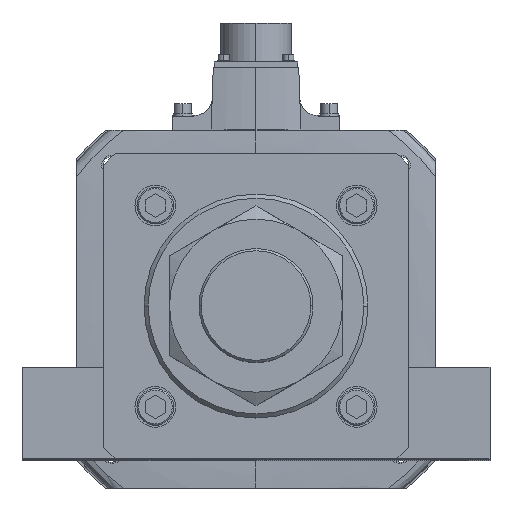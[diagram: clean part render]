
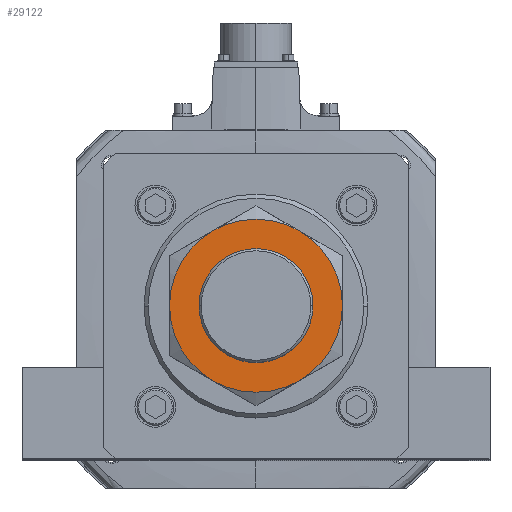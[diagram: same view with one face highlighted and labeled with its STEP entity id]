
A CAD part, top view. The second image highlights one B-rep face of the part: STEP entity #29122.
In plain terms, the highlighted planar face has unit normal (0, 0, 1).
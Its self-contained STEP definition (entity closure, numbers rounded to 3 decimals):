
#1978 = DIRECTION ( 'NONE',  ( 0., 0., 1. ) ) ;
#2155 = DIRECTION ( 'NONE',  ( 0., 0., -1. ) ) ;
#3862 = ORIENTED_EDGE ( 'NONE', *, *, #49593, .F. ) ;
#4217 = PLANE ( 'NONE',  #51559 ) ;
#4454 = VERTEX_POINT ( 'NONE', #49667 ) ;
#5420 = CARTESIAN_POINT ( 'NONE',  ( 0., 0., 34. ) ) ;
#5496 = ORIENTED_EDGE ( 'NONE', *, *, #11812, .F. ) ;
#5563 = DIRECTION ( 'NONE',  ( 0., 0., -1. ) ) ;
#6060 = CARTESIAN_POINT ( 'NONE',  ( -21.25, 36.806, 34. ) ) ;
#6887 = DIRECTION ( 'NONE',  ( 1., 0., 0. ) ) ;
#7992 = CARTESIAN_POINT ( 'NONE',  ( 0., 0., 34. ) ) ;
#8038 = ORIENTED_EDGE ( 'NONE', *, *, #49458, .F. ) ;
#8091 = CARTESIAN_POINT ( 'NONE',  ( 0., 0., 34. ) ) ;
#9026 = AXIS2_PLACEMENT_3D ( 'NONE', #5420, #31481, #14428 ) ;
#9104 = DIRECTION ( 'NONE',  ( 1., 0., 0. ) ) ;
#9345 = CIRCLE ( 'NONE', #51401, 42.5 ) ;
#9680 = CARTESIAN_POINT ( 'NONE',  ( 0., 0., 34. ) ) ;
#11606 = ORIENTED_EDGE ( 'NONE', *, *, #39049, .F. ) ;
#11812 = EDGE_CURVE ( 'NONE', #4454, #38467, #19008, .T. ) ;
#12182 = CARTESIAN_POINT ( 'NONE',  ( 21.25, -36.806, 34. ) ) ;
#14428 = DIRECTION ( 'NONE',  ( 1., 0., 0. ) ) ;
#14484 = AXIS2_PLACEMENT_3D ( 'NONE', #9680, #5563, #23719 ) ;
#15859 = CARTESIAN_POINT ( 'NONE',  ( 21.25, 36.806, 34. ) ) ;
#16000 = CARTESIAN_POINT ( 'NONE',  ( 0., 0., 34. ) ) ;
#17252 = DIRECTION ( 'NONE',  ( 1., 0., 0. ) ) ;
#17462 = CARTESIAN_POINT ( 'NONE',  ( -21.25, -36.806, 34. ) ) ;
#18127 = ORIENTED_EDGE ( 'NONE', *, *, #44080, .F. ) ;
#19008 = CIRCLE ( 'NONE', #14484, 42.5 ) ;
#19285 = ORIENTED_EDGE ( 'NONE', *, *, #24178, .F. ) ;
#22105 = VERTEX_POINT ( 'NONE', #15859 ) ;
#22179 = CIRCLE ( 'NONE', #9026, 42.5 ) ;
#22326 = AXIS2_PLACEMENT_3D ( 'NONE', #53572, #2155, #23947 ) ;
#23396 = CARTESIAN_POINT ( 'NONE',  ( -42.5, 0., 34. ) ) ;
#23719 = DIRECTION ( 'NONE',  ( 1., 0., 0. ) ) ;
#23947 = DIRECTION ( 'NONE',  ( 1., 0., 0. ) ) ;
#24178 = EDGE_CURVE ( 'NONE', #40806, #38806, #9345, .T. ) ;
#25153 = CIRCLE ( 'NONE', #27189, 28. ) ;
#26451 = VERTEX_POINT ( 'NONE', #6060 ) ;
#27189 = AXIS2_PLACEMENT_3D ( 'NONE', #8091, #46863, #17252 ) ;
#27596 = FACE_BOUND ( 'NONE', #30217, .T. ) ;
#29122 = ADVANCED_FACE ( 'NONE', ( #34288, #27596 ), #4217, .T. ) ;
#29196 = DIRECTION ( 'NONE',  ( 0., 0., -1. ) ) ;
#29567 = DIRECTION ( 'NONE',  ( 1., 0., 0. ) ) ;
#29937 = DIRECTION ( 'NONE',  ( 0., 0., 1. ) ) ;
#30217 = EDGE_LOOP ( 'NONE', ( #18127, #34674 ) ) ;
#31481 = DIRECTION ( 'NONE',  ( 0., 0., -1. ) ) ;
#32563 = CARTESIAN_POINT ( 'NONE',  ( 0., 0., 34. ) ) ;
#33419 = DIRECTION ( 'NONE',  ( 0., 0., -1. ) ) ;
#33559 = ORIENTED_EDGE ( 'NONE', *, *, #44942, .F. ) ;
#34288 = FACE_OUTER_BOUND ( 'NONE', #51842, .T. ) ;
#34674 = ORIENTED_EDGE ( 'NONE', *, *, #53661, .F. ) ;
#35461 = VERTEX_POINT ( 'NONE', #48973 ) ;
#36297 = VERTEX_POINT ( 'NONE', #46065 ) ;
#37140 = CIRCLE ( 'NONE', #43005, 42.5 ) ;
#37596 = DIRECTION ( 'NONE',  ( 0., 0., -1. ) ) ;
#38467 = VERTEX_POINT ( 'NONE', #12182 ) ;
#38806 = VERTEX_POINT ( 'NONE', #23396 ) ;
#39049 = EDGE_CURVE ( 'NONE', #38806, #26451, #53353, .T. ) ;
#39990 = CIRCLE ( 'NONE', #53357, 28. ) ;
#40299 = CIRCLE ( 'NONE', #22326, 42.5 ) ;
#40806 = VERTEX_POINT ( 'NONE', #17462 ) ;
#42462 = DIRECTION ( 'NONE',  ( -1., 0., 0. ) ) ;
#43005 = AXIS2_PLACEMENT_3D ( 'NONE', #7992, #37596, #29567 ) ;
#44080 = EDGE_CURVE ( 'NONE', #36297, #35461, #25153, .T. ) ;
#44942 = EDGE_CURVE ( 'NONE', #26451, #22105, #37140, .T. ) ;
#46065 = CARTESIAN_POINT ( 'NONE',  ( -28., 0., 34. ) ) ;
#46863 = DIRECTION ( 'NONE',  ( 0., 0., 1. ) ) ;
#47323 = CARTESIAN_POINT ( 'NONE',  ( 0., 0., 34. ) ) ;
#47743 = AXIS2_PLACEMENT_3D ( 'NONE', #54866, #29196, #42462 ) ;
#48973 = CARTESIAN_POINT ( 'NONE',  ( 28., 0., 34. ) ) ;
#49458 = EDGE_CURVE ( 'NONE', #38467, #40806, #22179, .T. ) ;
#49593 = EDGE_CURVE ( 'NONE', #22105, #4454, #40299, .T. ) ;
#49667 = CARTESIAN_POINT ( 'NONE',  ( 42.5, 0., 34. ) ) ;
#51401 = AXIS2_PLACEMENT_3D ( 'NONE', #16000, #33419, #54997 ) ;
#51559 = AXIS2_PLACEMENT_3D ( 'NONE', #47323, #29937, #9104 ) ;
#51842 = EDGE_LOOP ( 'NONE', ( #5496, #3862, #33559, #11606, #19285, #8038 ) ) ;
#53353 = CIRCLE ( 'NONE', #47743, 42.5 ) ;
#53357 = AXIS2_PLACEMENT_3D ( 'NONE', #32563, #1978, #6887 ) ;
#53572 = CARTESIAN_POINT ( 'NONE',  ( 0., 0., 34. ) ) ;
#53661 = EDGE_CURVE ( 'NONE', #35461, #36297, #39990, .T. ) ;
#54866 = CARTESIAN_POINT ( 'NONE',  ( 0., 0., 34. ) ) ;
#54997 = DIRECTION ( 'NONE',  ( 1., 0., 0. ) ) ;
